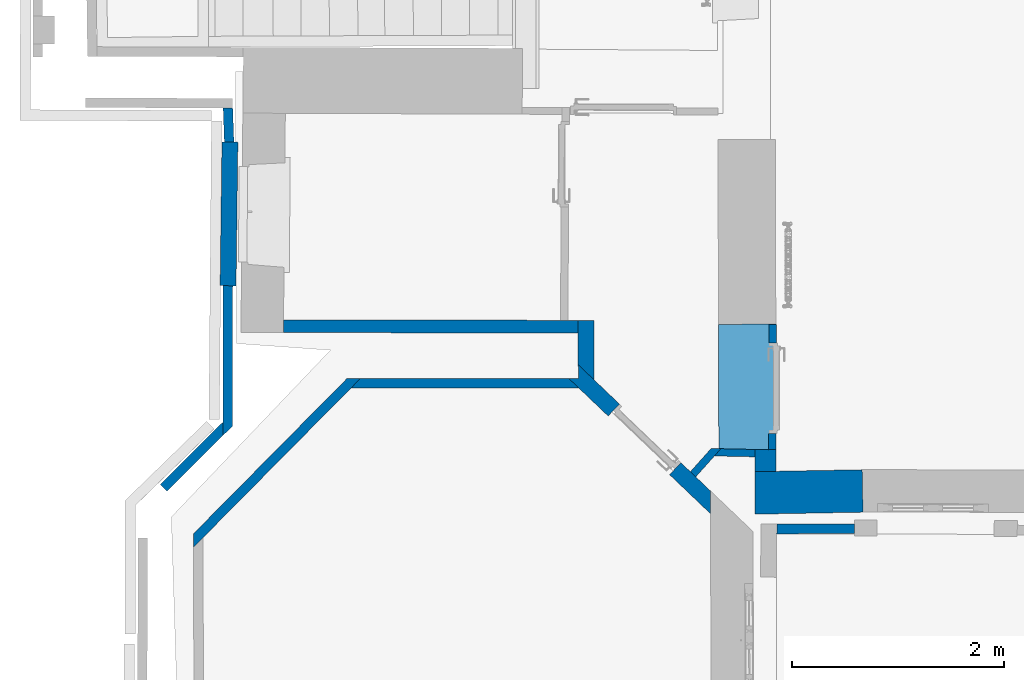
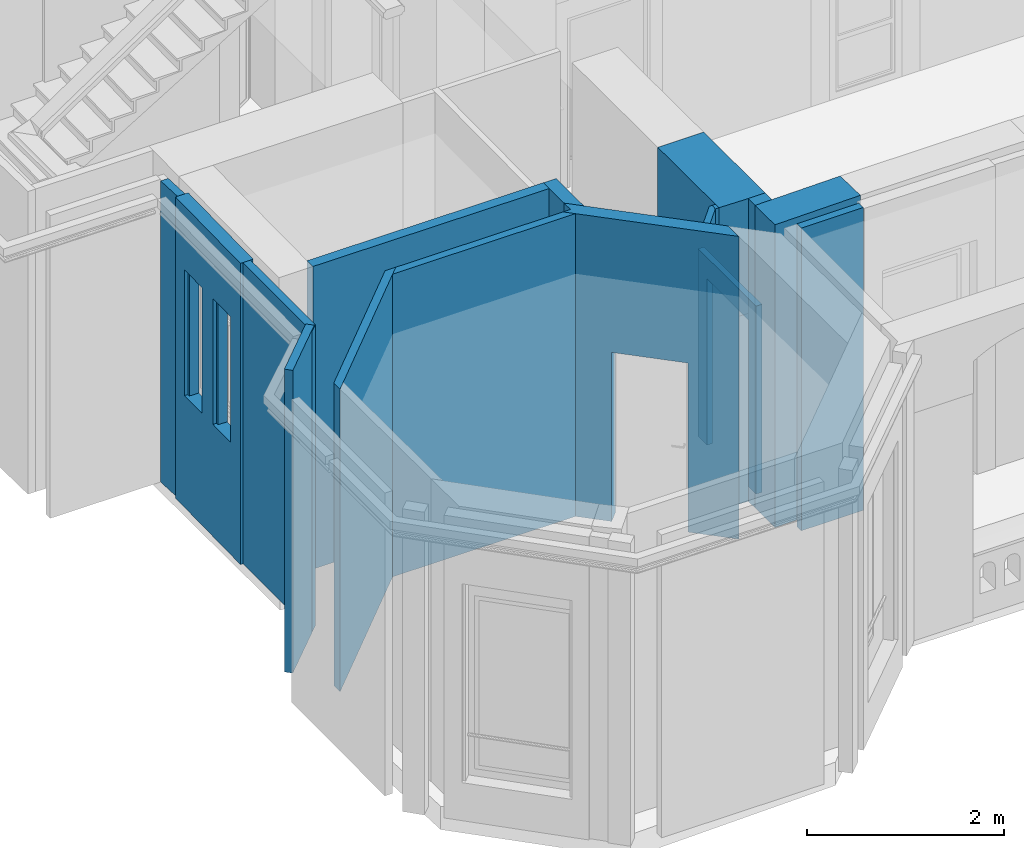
# One storey, part 3 of 66: 16 walls, 4 openings.
"""IFC2X3 building model written with IfcOpenShell, lengths in centimetres."""

from ifc_helpers import new_model, entity, si_unit, converted_unit, direction, frame, origin, origin_with_axes, origin_2d_with_axis, place, context, subcontext, project, spatial, polyline, rectangle, outline, extrude, clip, bounded_halfspace, faceted_brep, shape, material, layer, layer_set, layer_usage, type_object, element, save


model = new_model("IFC2X3")

# Units and contexts
model_context = context("Model", 3, precision=0.0001, world=origin(), true_north=direction((0.225632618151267, 0.974212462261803, 0.0)))
body_context = subcontext(model_context, "Body", "Model", "MODEL_VIEW")
footprint_context = subcontext(model_context, "FootPrint", "Model", "MODEL_VIEW")
profile_context = subcontext(model_context, "Profile", "Model", "MODEL_VIEW")
ifc_project = project(units=[si_unit("LENGTHUNIT", "METRE", prefix="CENTI"), si_unit("AREAUNIT", "SQUARE_METRE", prefix="CENTI"), si_unit("VOLUMEUNIT", "CUBIC_METRE", prefix="CENTI"), converted_unit("PLANEANGLEUNIT", "DEGREE", entity("IfcRatioMeasure", 0.0174532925), si_unit("PLANEANGLEUNIT", "RADIAN"), dimensions=[0, 0, 0, 0, 0, 0, 0])], contexts=[model_context])

# Site, building, storey
site_placement = place(None, origin_with_axes())
site = spatial("IfcSite", under=ifc_project, at=site_placement, Name="Default Site", CompositionType="ELEMENT")
building_placement = place(site_placement, origin_with_axes())
building = spatial("IfcBuilding", under=site, at=building_placement, Name="Default Building", CompositionType="ELEMENT")
storey_placement = place(building_placement, frame((0.0, 0.0, 477.795358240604), z_axis=(0.0, 0.0, 1.0), x_axis=(1.0, 0.0, 0.0)))
storey = spatial("IfcBuildingStorey", under=building, at=storey_placement, Name="Niveau 1", CompositionType="ELEMENT", Elevation=477.795358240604)

# Walls
ifc_material = material(Name="<aucun>")
ifc_layer_1 = layer(ifc_material, 9.0)
ifc_layer_set_1 = layer_set([ifc_layer_1], Name="default")
ifc_layer_usage_1 = layer_usage(ifc_layer_set_1, "AXIS2", "POSITIVE", -4.5)
wall_type_1 = type_object("IfcWallType", Name="default 90", PredefinedType="NOTDEFINED", material=ifc_layer_set_1)
wall_1_placement = place(storey_placement, frame((-1203.34683812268, -743.236612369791, 0.0128503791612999), z_axis=(0.0, 0.0, 1.0), x_axis=(0.703242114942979, 0.710950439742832, 0.0)))
element("IfcWallStandardCase", 1, at=wall_1_placement, inside=storey, type_object=wall_type_1, material=ifc_layer_usage_1, Name="Enveloppe 94660", context=body_context, shape_type="SweptSolid", body=[
    extrude(outline(polyline([(-2.99914237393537, 4.50000000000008), (-12.0318815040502, -4.49999999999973), (211.614897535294, -4.50000000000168), (202.723338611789, 4.49999999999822), (-2.99914237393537, 4.50000000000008)])), frame((0.0, 0.0, 1.77635683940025e-13), z_axis=(0.0, 0.0, 1.0), x_axis=(1.0, 0.0, 0.0)), (0.0, 0.0, 1.0), 376.102165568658),
])
ifc_layer_usage_2 = layer_usage(ifc_layer_set_1, "AXIS2", "POSITIVE", -4.5)
wall_2_placement = place(storey_placement, frame((-845.492576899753, -600.579123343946, 0.0128503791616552), z_axis=(0.0, 0.0, 1.0), x_axis=(-0.999999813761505, 0.000610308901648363, 0.0)))
element("IfcWallStandardCase", 2, at=wall_2_placement, inside=storey, type_object=wall_type_1, material=ifc_layer_usage_2, Name="Enveloppe 94894", context=body_context, shape_type="SweptSolid", body=[
    extrude(outline(polyline([(214.732819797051, 4.50000000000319), (0.0394276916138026, 4.49992110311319), (9.47926787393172, -4.49999999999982), (205.841260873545, -4.4999999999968), (214.732819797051, 4.50000000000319)])), frame((0.0, 0.0, -1.77635683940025e-13), z_axis=(0.0, 0.0, 1.0), x_axis=(1.0, 0.0, 0.0)), (0.0, 0.0, 1.0), 376.102165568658),
])
ifc_layer_2 = layer(ifc_material, 12.0)
ifc_layer_set_2 = layer_set([ifc_layer_2], Name="default")
ifc_layer_usage_3 = layer_usage(ifc_layer_set_2, "AXIS2", "POSITIVE", -6.0)
wall_type_2 = type_object("IfcWallType", Name="default 120", PredefinedType="NOTDEFINED", material=ifc_layer_set_2)
wall_3_placement = place(storey_placement, frame((-831.424598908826, -547.217489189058, 0.0128503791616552), z_axis=(0.0, 0.0, 1.0), x_axis=(-0.999998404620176, 0.00178626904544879, 0.0)))
element("IfcWallStandardCase", 3, at=wall_3_placement, inside=storey, type_object=wall_type_2, material=ifc_layer_usage_3, Name="Enveloppe 94636", context=body_context, shape_type="SweptSolid", body=[
    extrude(outline(polyline([(292.386866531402, 5.99999999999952), (24.5083043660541, 5.99999940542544), (14.9238361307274, 5.99999999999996), (15.0003045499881, -5.99999999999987), (24.5086375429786, -6.00017862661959), (292.306131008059, -6.00000000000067), (292.386866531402, 5.99999999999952)])), frame((0.0, 0.0, -1.77635683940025e-13), z_axis=(0.0, 0.0, 1.0), x_axis=(1.0, 0.0, 0.0)), (0.0, 0.0, 1.0), 376.102165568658),
])
ifc_layer_3 = layer(ifc_material, 15.0)
ifc_layer_set_3 = layer_set([ifc_layer_3], Name="default")
ifc_layer_usage_4 = layer_usage(ifc_layer_set_3, "AXIS2", "POSITIVE", -7.5)
wall_type_3 = type_object("IfcWallType", Name="default 150", PredefinedType="NOTDEFINED", material=ifc_layer_set_3)
wall_4_placement = place(storey_placement, frame((-838.657491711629, -597.141175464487, 0.0128503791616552), z_axis=(0.0, 0.0, 1.0), x_axis=(-0.00458599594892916, 0.999989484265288, 0.0)))
element("IfcWallStandardCase", 4, at=wall_4_placement, inside=storey, type_object=wall_type_3, material=ifc_layer_usage_4, Name="Enveloppe 94889", context=body_context, shape_type="SweptSolid", body=[
    extrude(outline(polyline([(55.9854549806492, 7.49999999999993), (14.1812718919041, 7.50000000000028), (-0.269355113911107, -7.49999999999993), (55.8898694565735, -7.49999999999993), (55.9854549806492, 7.49999999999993)])), origin_with_axes(), (0.0, 0.0, 1.0), 376.102165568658),
])
ifc_layer_4 = layer(ifc_material, 7.0)
ifc_layer_set_4 = layer_set([ifc_layer_4], Name="default")
ifc_layer_usage_5 = layer_usage(ifc_layer_set_4, "AXIS2", "POSITIVE", -3.5)
wall_type_4 = type_object("IfcWallType", Name="default 70", PredefinedType="NOTDEFINED", material=ifc_layer_set_4)
wall_5_placement = place(storey_placement, frame((-679.931187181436, -666.272021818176, 0.0128503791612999), z_axis=(0.0, 0.0, 1.0), x_axis=(-0.999740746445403, 0.0227692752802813, 0.0)))
element("IfcWallStandardCase", 5, at=wall_5_placement, inside=storey, type_object=wall_type_4, material=ifc_layer_usage_5, Name="Enveloppe 133213", context=body_context, shape_type="Clipping", body=[
    clip(clip(clip(clip(extrude(outline(polyline([(38.0062010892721, 3.49999999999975), (-0.17811939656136, 3.49999999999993), (2.66453525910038e-13, -3.50000000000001), (32.0603228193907, -3.5000000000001), (33.9542688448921, -1.27028361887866), (34.0110053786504, -3.50000000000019), (38.0062010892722, -3.50000000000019), (38.0062010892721, 3.49999999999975)])), frame((0.0, 0.0, -8.88178419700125e-14), z_axis=(0.0, 0.0, 1.0), x_axis=(1.0, 0.0, 0.0)), (0.0, 0.0, 1.0), 376.102165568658), bounded_halfspace(frame((34.0110053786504, -3.5000000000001, 233.487149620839), z_axis=(0.0, 0.0, 1.0), x_axis=(-0.0254373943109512, 0.999676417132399, 0.0)), True, frame((34.0110053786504, -3.5000000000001, 233.487149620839), z_axis=(0.0, 0.0, 1.0), x_axis=(1.0, 0.0, 0.0)), polyline([(-0.0567365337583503, 2.22971638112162), (3.99519571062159, 6.99999999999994), (3.99519571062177, 0.0), (-8.88178419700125e-14, 0.0), (-0.0567365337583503, 2.22971638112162)]))), bounded_halfspace(frame((32.0603228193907, -3.50000000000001, 233.487149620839), z_axis=(0.0, 0.0, -1.0), x_axis=(0.647387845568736, 0.762160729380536, 0.0)), True, frame((32.0603228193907, -3.50000000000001, 233.487149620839), z_axis=(0.0, 0.0, 1.0), x_axis=(1.0, 0.0, 0.0)), polyline([(-32.1575049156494, 3.81920603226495), (-32.0603228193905, 8.88178419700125e-14), (0.0, -8.88178419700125e-14), (1.89394602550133, 2.22971638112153), (1.85880176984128, 3.61086742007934), (-32.1575049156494, 3.81920603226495)]))), bounded_halfspace(frame((28.5309158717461, 0.143868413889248, 233.487149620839), z_axis=(0.0, 0.0, -1.0), x_axis=(0.658057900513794, 0.75296732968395, 0.0)), True, frame((28.5309158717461, 0.143868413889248, 233.487149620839), z_axis=(0.0, 0.0, 1.0), x_axis=(1.0, 0.0, 0.0)), polyline([(-28.7090352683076, 3.35613158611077), (-28.6280979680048, 0.175337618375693), (0.0, 0.0), (2.93310057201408, 3.35613158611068), (-28.7090352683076, 3.35613158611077)]))), bounded_halfspace(frame((28.5309158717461, 0.143868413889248, 233.487149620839), z_axis=(0.0, 0.0, -1.0), x_axis=(0.999981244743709, -0.00612455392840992, 0.0)), True, frame((28.5309158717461, 0.143868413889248, 233.487149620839), z_axis=(0.0, 0.0, 1.0), x_axis=(1.0, 0.0, 0.0)), polyline([(0.0, 0.0), (5.38820871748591, -0.0330009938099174), (5.30197011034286, 3.35613158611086), (2.93310057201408, 3.35613158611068), (0.0, 0.0)]))),
])
ifc_layer_usage_6 = layer_usage(ifc_layer_set_4, "AXIS2", "POSITIVE", -3.5)
wall_6_placement = place(storey_placement, frame((-738.005637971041, -686.124690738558, 0.0128503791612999), z_axis=(0.0, 0.0, 1.0), x_axis=(0.664573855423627, 0.747222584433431, 0.0)))
element("IfcWallStandardCase", 6, at=wall_6_placement, inside=storey, type_object=wall_type_4, material=ifc_layer_usage_6, Name="Enveloppe 132860", context=body_context, shape_type="Clipping", body=[
    clip(clip(extrude(outline(polyline([(-1.77635683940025e-13, 3.5000000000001), (-0.246760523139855, -3.5000000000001), (35.3412234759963, -3.5000000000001), (29.3953452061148, 3.49999999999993), (-1.77635683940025e-13, 3.5000000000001)])), origin_with_axes(), (0.0, 0.0, 1.0), 376.102165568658), bounded_halfspace(frame((26.1568090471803, -3.5000000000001, 233.487149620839), z_axis=(0.0, 0.0, -1.0), x_axis=(1.0, 1.32671651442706e-14, 0.0)), True, frame((26.1568090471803, -3.5000000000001, 233.487149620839), z_axis=(0.0, 0.0, 1.0), x_axis=(1.0, 0.0, 0.0)), polyline([(0.0, 0.0), (6.25889452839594, 0.0), (7.92156624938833, 1.48673364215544), (5.33512510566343, 4.53171491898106), (0.0, 0.0)]))), bounded_halfspace(frame((34.0783752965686, -2.01326635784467, 233.487149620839), z_axis=(0.0, 0.0, -1.0), x_axis=(-0.745446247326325, -0.666565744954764, 0.0)), True, frame((34.0783752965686, -2.01326635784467, 233.487149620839), z_axis=(0.0, 0.0, 1.0), x_axis=(1.0, 0.0, 0.0)), polyline([(-1.66267172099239, -1.48673364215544), (1.26284817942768, -1.48673364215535), (0.0, 0.0), (-1.66267172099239, -1.48673364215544)]))),
])

# Wall, opening
ifc_layer_usage_7 = layer_usage(ifc_layer_set_4, "AXIS2", "POSITIVE", -3.5)
wall_7_placement = place(storey_placement, frame((-663.353907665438, -662.71291686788, 0.0128503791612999), z_axis=(0.0, 0.0, 1.0), x_axis=(0.00189736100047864, 0.999998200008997, 0.0)))
wall_7 = element("IfcWallStandardCase", 7, at=wall_7_placement, inside=storey, type_object=wall_type_4, material=ifc_layer_usage_7, Name="Enveloppe 128735", context=body_context, shape_type="SweptSolid", body=[
    extrude(rectangle(XDim=117.772479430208, YDim=7.00097564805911, at=origin_2d_with_axis()), frame((58.8862406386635, -4.44089209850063e-13, -2.66453525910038e-13), z_axis=(0.0, 0.0, 1.0), x_axis=(0.999999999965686, 8.28417693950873e-06, 0.0)), (0.0, 0.0, 1.0), 233.487149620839),
])
opening_1_placement = place(wall_7_placement, frame((15.1645133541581, -1.13686837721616e-13, -1.77635683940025e-13), z_axis=(0.0, 0.0, 1.0), x_axis=(-1.0, 5.98826543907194e-15, 0.0)))
cartesian_point_1 = entity("IfcCartesianPoint", [0.0, -8.88178419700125e-14, 207.0])
cartesian_point_2 = entity("IfcCartesianPoint", [-85.0000000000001, -3.50000000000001])
element("IfcOpeningElement", 8, at=opening_1_placement, cuts=wall_7, Name="4294966409_11", ObjectType="Opening", shapes=[
    shape(body_context, "Body", "SweptSolid", [extrude(outline(polyline([(8.88178419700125e-14, 207.0), (8.88178419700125e-14, -8.88178419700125e-14), (85.0000000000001, -8.88178419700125e-14), (85.0000000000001, 207.0), (8.88178419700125e-14, 207.0)])), frame((0.0, -13.5, 0.0), z_axis=(0.0, 1.0, 0.0), x_axis=(-1.0, 0.0, 0.0)), (0.0, 0.0, 1.0), 27.0)]),
    shape(profile_context, "Profile", "GeometricCurveSet", [entity("IfcGeometricCurveSet", [entity("IfcPolyline", [cartesian_point_1, entity("IfcCartesianPoint", [0.0, -8.88178419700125e-14, -8.88178419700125e-14]), entity("IfcCartesianPoint", [-85.0000000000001, 0.0, -8.88178419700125e-14]), entity("IfcCartesianPoint", [-85.0000000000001, 0.0, 207.0]), cartesian_point_1])])]),
    shape(footprint_context, "FootPrint", "GeometricCurveSet", [entity("IfcGeometricCurveSet", [entity("IfcPolyline", [cartesian_point_2, entity("IfcCartesianPoint", [-8.88178419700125e-14, -3.50000000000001]), entity("IfcCartesianPoint", [-8.88178419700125e-14, 3.49999999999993]), entity("IfcCartesianPoint", [-85.0000000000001, 3.50000000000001]), cartesian_point_2])])]),
])

# Wall
ifc_layer_5 = layer(ifc_material, 20.0)
ifc_layer_set_5 = layer_set([ifc_layer_5], Name="default")
ifc_layer_usage_8 = layer_usage(ifc_layer_set_5, "AXIS2", "POSITIVE", -10.0)
wall_type_5 = type_object("IfcWallType", Name="default 200", PredefinedType="NOTDEFINED", material=ifc_layer_set_5)
wall_8_placement = place(storey_placement, frame((-669.727140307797, -709.353439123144, 0.0128503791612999), z_axis=(0.0, 0.0, 1.0), x_axis=(-0.00266889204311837, 0.999996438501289, 0.0)))
element("IfcWallStandardCase", 9, at=wall_8_placement, inside=storey, type_object=wall_type_5, material=ifc_layer_usage_8, Name="Enveloppe 128736", context=body_context, shape_type="Clipping", body=[
    clip(clip(extrude(outline(polyline([(46.6073648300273, 10.0000000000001), (25.6608398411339, 10.0000000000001), (25.9735229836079, -10.0000000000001), (46.6073648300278, -9.99765197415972), (46.6393285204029, -2.99772495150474), (46.2766698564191, -2.99675705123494), (46.6073648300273, 10.0000000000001)])), origin_with_axes(), (0.0, 0.0, 1.0), 376.102165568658), bounded_halfspace(frame((46.6393285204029, -2.99772495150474, 233.487149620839), z_axis=(0.0, 0.0, -1.0), x_axis=(-0.999989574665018, 0.0045662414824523, 0.0)), True, frame((46.6393285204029, -2.99772495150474, 233.487149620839), z_axis=(0.0, 0.0, 1.0), x_axis=(1.0, 0.0, 0.0)), polyline([(-4.4839103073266, -7.0022750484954), (-0.0319636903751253, -6.99992702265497), (0.0, 0.0), (-0.362656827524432, 0.0016559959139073), (-0.0319636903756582, 12.9977249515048), (-3.85240595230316, 12.9977249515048), (-4.4839103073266, -7.0022750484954)]))), bounded_halfspace(frame((39.6050990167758, -10.0000000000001, 233.487149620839), z_axis=(0.0, 0.0, -1.0), x_axis=(1.0, 2.73045475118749e-15, 0.0)), True, frame((39.6050990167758, -10.0000000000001, 233.487149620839), z_axis=(0.0, 0.0, 1.0), x_axis=(1.0, 0.0, 0.0)), polyline([(0.0, -8.88178419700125e-14), (2.55031919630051, -8.88178419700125e-14), (3.18182355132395, 20.0000000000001), (-8.88178419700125e-14, 20.0), (0.0, -8.88178419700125e-14)]))),
])

# Wall, opening
ifc_layer_6 = layer(ifc_material, 15.5)
ifc_layer_set_6 = layer_set([ifc_layer_6], Name="default")
ifc_layer_usage_9 = layer_usage(ifc_layer_set_6, "AXIS2", "POSITIVE", -7.75)
wall_type_6 = type_object("IfcWallType", Name="default 155", PredefinedType="NOTDEFINED", material=ifc_layer_set_6)
wall_9_placement = place(storey_placement, frame((-717.250411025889, -716.821603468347, 0.0128503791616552), z_axis=(0.0, 0.0, 1.0), x_axis=(-0.723346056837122, 0.690485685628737, 0.0)))
wall_9 = element("IfcWallStandardCase", 10, at=wall_9_placement, inside=storey, type_object=wall_type_6, material=ifc_layer_usage_9, Name="Enveloppe 94649", context=body_context, shape_type="SweptSolid", body=[
    extrude(outline(polyline([(182.993216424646, 7.75000000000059), (32.7024697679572, 7.75000000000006), (-1.15437363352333, 7.75000000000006), (13.7657133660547, -7.74999999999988), (32.7024697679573, -7.74999999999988), (185.697149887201, -7.74999999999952), (176.619247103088, 1.67301961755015), (182.993216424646, 7.75000000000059)])), frame((0.0, 0.0, -3.5527136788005e-13), z_axis=(0.0, 0.0, 1.0), x_axis=(1.0, 0.0, 0.0)), (0.0, 0.0, 1.0), 376.102165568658),
])
opening_2_placement = place(wall_9_placement, frame((52.0205864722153, 2.27373675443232e-13, -1.78523862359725e-13), z_axis=(0.0, 0.0, 1.0), x_axis=(1.0, 3.21964677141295e-15, 0.0)))
cartesian_point_3 = entity("IfcCartesianPoint", [0.0, 0.0, 210.0])
cartesian_point_4 = entity("IfcCartesianPoint", [79.9999999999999, 7.75000000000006])
element("IfcOpeningElement", 11, at=opening_2_placement, cuts=wall_9, Name="4294966412_11", ObjectType="Opening", shapes=[
    shape(body_context, "Body", "SweptSolid", [extrude(outline(polyline([(0.0, 210.0), (0.0, -8.88178419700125e-14), (79.9999999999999, -8.88178419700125e-14), (79.9999999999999, 210.0), (0.0, 210.0)])), frame((0.0, 17.75, 0.0), z_axis=(0.0, -1.0, 0.0), x_axis=(1.0, 0.0, 0.0)), (0.0, 0.0, 1.0), 35.5)]),
    shape(profile_context, "Profile", "GeometricCurveSet", [entity("IfcGeometricCurveSet", [entity("IfcPolyline", [cartesian_point_3, entity("IfcCartesianPoint", [0.0, 0.0, -8.88178419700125e-14]), entity("IfcCartesianPoint", [80.0, 1.77635683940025e-13, -8.88178419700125e-14]), entity("IfcCartesianPoint", [80.0, 1.77635683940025e-13, 210.0]), cartesian_point_3])])]),
    shape(footprint_context, "FootPrint", "GeometricCurveSet", [entity("IfcGeometricCurveSet", [entity("IfcPolyline", [cartesian_point_4, entity("IfcCartesianPoint", [0.0, 7.75000000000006]), entity("IfcCartesianPoint", [-8.88178419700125e-14, -7.74999999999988]), entity("IfcCartesianPoint", [80.0, -7.75000000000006]), cartesian_point_4])])]),
])

# Walls
ifc_layer_7 = layer(ifc_material, 40.0)
ifc_layer_set_7 = layer_set([ifc_layer_7], Name="default")
ifc_layer_usage_10 = layer_usage(ifc_layer_set_7, "AXIS2", "POSITIVE", -20.0)
wall_type_7 = type_object("IfcWallType", Name="default 400", PredefinedType="NOTDEFINED", material=ifc_layer_set_7)
wall_10_placement = place(storey_placement, frame((-679.781285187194, -703.722467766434, 0.0128503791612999), z_axis=(0.0, 0.0, 1.0), x_axis=(0.999832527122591, 0.018300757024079, 0.0)))
element("IfcWallStandardCase", 12, at=wall_10_placement, inside=storey, type_object=wall_type_7, material=ifc_layer_usage_10, Name="Enveloppe 93762", context=body_context, shape_type="SweptSolid", body=[
    extrude(outline(polyline([(0.351768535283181, 20.0), (-0.273597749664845, -20.0), (101.345272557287, -19.9999999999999), (101.345272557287, 20.0000000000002), (0.351768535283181, 20.0)])), frame((0.0, 0.0, 2.66453525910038e-13), z_axis=(0.0, 0.0, 1.0), x_axis=(1.0, 0.0, 0.0)), (0.0, 0.0, 1.0), 376.102165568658),
])
ifc_layer_usage_11 = layer_usage(ifc_layer_set_1, "AXIS2", "POSITIVE", -4.5)
wall_type_8 = type_object("IfcWallType", Name="default 90", PredefinedType="NOTDEFINED", material=ifc_layer_set_1)
wall_11_placement = place(storey_placement, frame((-1174.96759127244, -373.169200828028, 0.0128503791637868), z_axis=(0.0, 0.0, 1.0), x_axis=(-0.0355453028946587, 0.999368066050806, 0.0)))
element("IfcWallStandardCase", 13, at=wall_11_placement, inside=storey, type_object=wall_type_8, material=ifc_layer_usage_11, Name="Enveloppe 423177", context=body_context, shape_type="SweptSolid", body=[
    extrude(outline(polyline([(32.2202008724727, 4.49999999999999), (-8.88178419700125e-14, 4.50000000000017), (-0.435633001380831, -4.49999999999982), (31.8838213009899, -4.49999999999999), (32.2202008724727, 4.49999999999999)])), frame((0.0, 0.0, -2.66453525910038e-13), z_axis=(0.0, 0.0, 1.0), x_axis=(1.0, 0.0, 0.0)), (0.0, 0.0, 1.0), 374.102165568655),
])
ifc_layer_usage_12 = layer_usage(ifc_layer_set_1, "AXIS2", "POSITIVE", -4.5)
wall_12_placement = place(storey_placement, frame((-1176.33760420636, -637.345652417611, 0.0128503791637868), z_axis=(0.0, 0.0, 1.0), x_axis=(0.00211546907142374, 0.9999977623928, 0.0)))
element("IfcWallStandardCase", 14, at=wall_12_placement, inside=storey, type_object=wall_type_8, material=ifc_layer_usage_12, Name="Enveloppe 423199", context=body_context, shape_type="SweptSolid", body=[
    extrude(outline(polyline([(-12.3964431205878, 4.50000000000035), (-3.41676135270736, -4.50000000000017), (128.685568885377, -4.50000000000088), (128.785568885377, 4.49999999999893), (-12.3964431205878, 4.50000000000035)])), origin_with_axes(), (0.0, 0.0, 1.0), 374.102165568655),
])
ifc_layer_usage_13 = layer_usage(ifc_layer_set_1, "AXIS2", "POSITIVE", -4.5)
wall_13_placement = place(storey_placement, frame((-1236.85894526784, -699.02197442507, 0.0128503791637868), z_axis=(0.0, 0.0, 1.0), x_axis=(0.709397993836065, 0.704808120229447, 0.0)))
element("IfcWallStandardCase", 15, at=wall_13_placement, inside=storey, type_object=wall_type_8, material=ifc_layer_usage_13, Name="Enveloppe 423262", context=body_context, shape_type="Clipping", body=[
    clip(clip(extrude(outline(polyline([(0.0938908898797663, 4.48917370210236), (0.0938908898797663, -4.4999999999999), (83.2181161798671, -4.49999999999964), (83.2185920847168, 4.27503628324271), (83.442100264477, 4.50000000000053), (3.90974692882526, 4.50000000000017), (0.0938908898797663, 4.48917370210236)])), frame((0.0, 0.0, -3.01980662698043e-12), z_axis=(0.0, 0.0, 1.0), x_axis=(1.0, 0.0, 0.0)), (0.0, 0.0, 1.0), 376.102165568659), bounded_halfspace(frame((83.2181161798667, 4.27550910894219, 374.102165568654), z_axis=(0.0, 0.0, 1.0), x_axis=(2.03725925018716e-14, -1.0, 0.0)), True, frame((83.2181161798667, 4.27550910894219, 374.102165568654), z_axis=(0.0, 0.0, 1.0), x_axis=(1.0, 0.0, 0.0)), polyline([(-8.75569768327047, -8.77550910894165), (1.77635683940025e-13, 8.88178419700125e-14), (5.32907051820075e-13, -8.77550910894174), (-8.75569768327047, -8.77550910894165)]))), bounded_halfspace(frame((83.2181161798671, 4.50000000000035, 374.102165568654), z_axis=(0.0, 0.0, -1.0), x_axis=(-7.96751553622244e-13, -1.0, 0.0)), True, frame((83.2181161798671, 4.50000000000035, 374.102165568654), z_axis=(0.0, 0.0, 1.0), x_axis=(1.0, 0.0, 0.0)), polyline([(-1.77635683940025e-13, -0.224490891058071), (0.223984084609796, 2.66453525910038e-13), (1.77635683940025e-13, 8.88178419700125e-14), (-1.77635683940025e-13, -0.224490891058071)]))),
])
ifc_layer_usage_14 = layer_usage(ifc_layer_set_1, "AXIS2", "POSITIVE", -4.5)
wall_14_placement = place(storey_placement, frame((-659.603422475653, -737.685567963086, 0.0128503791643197), z_axis=(0.0, 0.0, 1.0), x_axis=(0.99999886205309, 0.00150860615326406, 0.0)))
element("IfcWallStandardCase", 16, at=wall_14_placement, inside=storey, type_object=wall_type_8, material=ifc_layer_usage_14, Name="Enveloppe 423940", context=body_context, shape_type="SweptSolid", body=[
    extrude(outline(polyline([(0.30346088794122, -4.4999999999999), (73.3290636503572, -4.49999999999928), (73.3812101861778, 4.5000000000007), (0.346063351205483, 4.49999999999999), (0.30346088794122, -4.4999999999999)])), frame((0.0, 0.0, -1.77635683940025e-13), z_axis=(0.0, 0.0, 1.0), x_axis=(1.0, 0.0, 0.0)), (0.0, 0.0, 1.0), 376.102165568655),
])

# Wall, openings
ifc_layer_usage_15 = layer_usage(ifc_layer_set_3, "AXIS2", "POSITIVE", -7.5)
wall_type_9 = type_object("IfcWallType", Name="default 150", PredefinedType="NOTDEFINED", material=ifc_layer_set_3)
wall_15_placement = place(storey_placement, frame((-1175.97321928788, -508.609692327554, 0.0128503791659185), z_axis=(0.0, 0.0, 1.0), x_axis=(0.0128127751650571, 0.999917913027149, 0.0)))
wall_15 = element("IfcWallStandardCase", 17, at=wall_15_placement, inside=storey, type_object=wall_type_9, material=ifc_layer_usage_15, Name="Enveloppe 425544", context=body_context, shape_type="SweptSolid", body=[
    extrude(rectangle(XDim=135.224696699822, YDim=14.9999999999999, at=origin_2d_with_axis()), frame((67.612348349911, -5.32907051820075e-13, -2.30926389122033e-12), z_axis=(0.0, 0.0, 1.0), x_axis=(1.0, -4.64732419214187e-15, 0.0)), (0.0, 0.0, 1.0), 374.102165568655),
])
opening_3_placement = place(wall_15_placement, frame((79.657815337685, -4.54747350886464e-13, 138.873704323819), z_axis=(0.0, 0.0, 1.0), x_axis=(1.0, -4.6299769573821e-15, 0.0)))
cartesian_point_5 = entity("IfcCartesianPoint", [0.0, 0.0, 156.276045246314])
cartesian_point_6 = entity("IfcCartesianPoint", [36.515728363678, 7.49999999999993])
element("IfcOpeningElement", 18, at=opening_3_placement, cuts=wall_15, Name="Baie 427159", ObjectType="Opening", shapes=[
    shape(body_context, "Body", "Brep", [faceted_brep([(-1.70625025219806e-05, 27.5000463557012, 156.276031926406), (36.5157368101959, 27.5000463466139, 156.276031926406), (36.5157368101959, 27.5000463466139, -3.3824314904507e-06), (-1.70625025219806e-05, 27.5000463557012, -3.3824314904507e-06), (2.99999735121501, -27.4999998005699, -3.3824314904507e-06), (33.5157175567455, -27.499999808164, -3.3824314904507e-06), (33.5157175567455, -27.499999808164, 156.276031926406), (2.99999735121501, -27.4999998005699, 156.276031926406), (2.99999735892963, 3.50001205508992, 156.276031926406), (2.99999735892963, 3.50001205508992, -3.3824314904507e-06), (3.00000652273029, 3.50001205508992, -3.3824314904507e-06), (3.00000652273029, 3.50001205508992, 156.276031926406), (-2.22308040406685e-05, 3.5000120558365, 156.276031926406), (-2.22308040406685e-05, 3.5000120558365, -3.3824314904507e-06), (-2.22308040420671e-05, 3.50000643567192, -3.3824314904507e-06), (-2.22308040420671e-05, 3.50000643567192, 156.276031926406), (-2.22248314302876e-05, 27.5000463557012, 156.276031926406), (-2.22248314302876e-05, 27.5000463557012, -3.3824314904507e-06), (33.5157175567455, -27.5000152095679, -3.3824314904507e-06), (36.5157368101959, 27.5000418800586, -3.3824314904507e-06), (36.5157316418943, 3.50000196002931, -3.3824314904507e-06), (33.5157267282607, 3.49999664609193, -3.3824314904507e-06), (33.5157175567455, -27.5000152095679, 156.276031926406), (33.5157175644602, 3.49999664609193, -3.3824314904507e-06), (33.5157175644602, 3.49999664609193, 156.276031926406), (33.5157267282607, 3.49999664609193, 156.276031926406), (36.5157316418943, 3.49999664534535, -3.3824314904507e-06), (36.5157316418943, 3.49999664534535, 156.276031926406), (36.5157316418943, 3.50000196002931, 156.276031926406), (36.515731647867, 27.5000418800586, -3.3824314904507e-06), (36.515731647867, 27.5000418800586, 156.276031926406), (36.5157368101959, 27.5000418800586, 156.276031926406)], [[[0, 1, 2, 3]], [[4, 5, 6, 7]], [[4, 7, 8, 9]], [[10, 11, 12, 13]], [[14, 15, 16, 17]], [[18, 4, 10, 14, 3, 19, 20, 21]], [[22, 18, 23, 24]], [[25, 21, 26, 27]], [[28, 20, 29, 30]], [[25, 28, 31, 0, 15, 11, 7, 22]]])]),
    shape(profile_context, "Profile", "GeometricCurveSet", [entity("IfcGeometricCurveSet", [entity("IfcPolyline", [cartesian_point_5, entity("IfcCartesianPoint", [0.0, 0.0, 0.0]), entity("IfcCartesianPoint", [36.5157283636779, 0.0, 0.0]), entity("IfcCartesianPoint", [36.5157283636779, 0.0, 156.276045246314]), cartesian_point_5])])]),
    shape(footprint_context, "FootPrint", "GeometricCurveSet", [entity("IfcGeometricCurveSet", [entity("IfcPolyline", [cartesian_point_6, entity("IfcCartesianPoint", [-8.88178419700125e-14, 7.49999999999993]), entity("IfcCartesianPoint", [8.88178419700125e-14, -7.50000000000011]), entity("IfcCartesianPoint", [36.515728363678, -7.50000000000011]), cartesian_point_6])])]),
])
opening_4_placement = place(wall_15_placement, frame((20.4439094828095, -2.27373675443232e-13, 139.169184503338), z_axis=(0.0, 0.0, 1.0), x_axis=(1.0, -4.6299769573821e-15, 0.0)))
cartesian_point_7 = entity("IfcCartesianPoint", [0.0, 0.0, 156.276045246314])
cartesian_point_8 = entity("IfcCartesianPoint", [36.6293234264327, 7.49999999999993])
element("IfcOpeningElement", 19, at=opening_4_placement, cuts=wall_15, Name="Baie 427161", ObjectType="Opening", shapes=[
    shape(body_context, "Body", "Brep", [faceted_brep([(1.57105732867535e-05, 27.5000002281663, 156.276047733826), (36.6293135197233, 27.5000002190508, 156.276047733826), (36.6293135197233, 27.5000002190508, 1.24249877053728e-05), (1.57105732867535e-05, 27.5000002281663, 1.24249877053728e-05), (2.9999824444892, -27.5000465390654, 1.24249877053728e-05), (33.6293181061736, -27.5000465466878, 1.24249877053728e-05), (33.6293181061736, -27.5000465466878, 156.276047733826), (2.9999824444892, -27.5000465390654, 156.276047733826), (2.99998245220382, 3.49996531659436, 156.276047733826), (2.99998245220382, 3.49996531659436, 1.24249877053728e-05), (2.99999161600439, 3.49996531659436, 1.24249877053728e-05), (2.99999161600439, 3.49996531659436, 156.276047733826), (1.05422716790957e-05, 3.49996531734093, 156.276047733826), (1.05422716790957e-05, 3.49996531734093, 1.24249877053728e-05), (1.05422716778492e-05, 3.49996030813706, 1.24249877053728e-05), (1.05422716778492e-05, 3.49996030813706, 156.276047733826), (1.05482442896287e-05, 27.5000002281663, 156.276047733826), (1.05482442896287e-05, 27.5000002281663, 1.24249877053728e-05), (33.6293181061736, -27.5000367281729, 1.24249877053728e-05), (36.6293135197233, 27.5000200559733, 1.24249877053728e-05), (36.6293083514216, 3.49998013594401, 1.24249877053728e-05), (33.6293272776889, 3.49997512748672, 1.24249877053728e-05), (33.6293181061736, -27.5000367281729, 156.276047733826), (33.6293181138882, 3.49997512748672, 1.24249877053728e-05), (33.6293181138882, 3.49997512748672, 156.276047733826), (33.6293272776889, 3.49997512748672, 156.276047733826), (36.6293083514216, 3.49997512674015, 1.24249877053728e-05), (36.6293083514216, 3.49997512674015, 156.276047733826), (36.6293083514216, 3.49998013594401, 156.276047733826), (36.6293083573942, 27.5000200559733, 1.24249877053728e-05), (36.6293083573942, 27.5000200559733, 156.276047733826), (36.6293135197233, 27.5000200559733, 156.276047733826)], [[[0, 1, 2, 3]], [[4, 5, 6, 7]], [[4, 7, 8, 9]], [[10, 11, 12, 13]], [[14, 15, 16, 17]], [[18, 4, 10, 14, 3, 19, 20, 21]], [[22, 18, 23, 24]], [[25, 21, 26, 27]], [[28, 20, 29, 30]], [[25, 28, 31, 0, 15, 11, 7, 22]]])]),
    shape(profile_context, "Profile", "GeometricCurveSet", [entity("IfcGeometricCurveSet", [entity("IfcPolyline", [cartesian_point_7, entity("IfcCartesianPoint", [0.0, 0.0, 8.88178419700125e-14]), entity("IfcCartesianPoint", [36.6293234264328, 0.0, 8.88178419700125e-14]), entity("IfcCartesianPoint", [36.6293234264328, 0.0, 156.276045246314]), cartesian_point_7])])]),
    shape(footprint_context, "FootPrint", "GeometricCurveSet", [entity("IfcGeometricCurveSet", [entity("IfcPolyline", [cartesian_point_8, entity("IfcCartesianPoint", [0.0, 7.49999999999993]), entity("IfcCartesianPoint", [1.77635683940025e-13, -7.50000000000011]), entity("IfcCartesianPoint", [36.6293234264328, -7.50000000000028]), cartesian_point_8])])]),
])

# Wall
ifc_layer_8 = layer(ifc_material, 54.0)
ifc_layer_set_8 = layer_set([ifc_layer_8], Name="default")
ifc_layer_usage_16 = layer_usage(ifc_layer_set_8, "AXIS2", "POSITIVE", -27.0)
wall_type_10 = type_object("IfcWallType", Name="default 540", PredefinedType="NOTDEFINED", material=ifc_layer_set_8)
wall_16_placement = place(storey_placement, frame((-686.851469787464, -662.791611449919, 233.5), z_axis=(0.0, 0.0, 1.0), x_axis=(-0.00266889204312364, 0.999996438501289, 0.0)))
element("IfcWallStandardCase", 20, at=wall_16_placement, inside=storey, type_object=wall_type_10, material=ifc_layer_usage_16, Name="Enveloppe 128676", context=body_context, shape_type="SweptSolid", body=[
    extrude(outline(polyline([(117.933811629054, 26.9999999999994), (-6.13711445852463, 26.9999999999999), (-7.0022658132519, -6.99999999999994), (-7.00226581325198, -27.0000000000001), (117.93381048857, -27.000427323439), (117.933811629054, 26.9999999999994)])), frame((0.0, 0.0, -1.77635683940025e-13), z_axis=(0.0, 0.0, 1.0), x_axis=(1.0, 0.0, 0.0)), (0.0, 0.0, 1.0), 142.615015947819),
])

save(model, "model.ifc")
